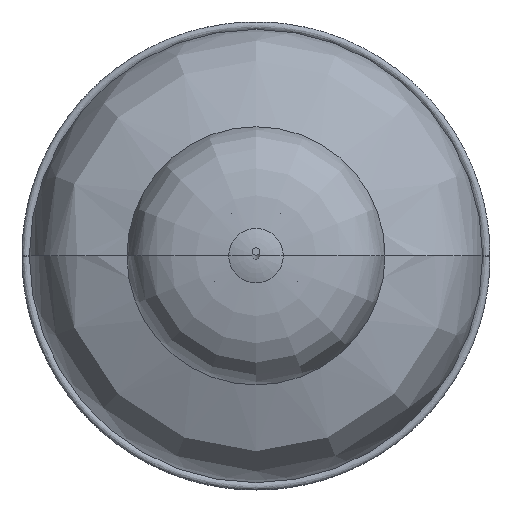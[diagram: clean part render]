
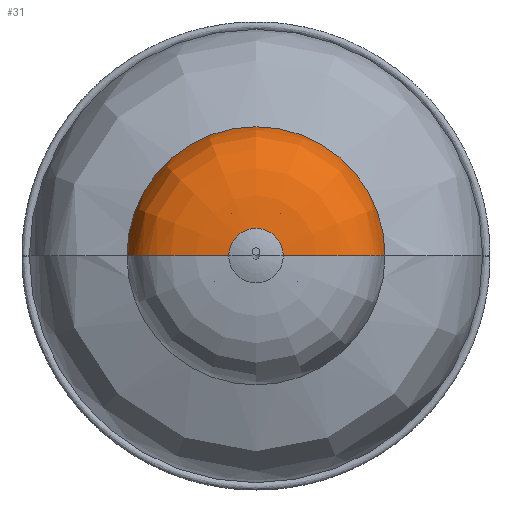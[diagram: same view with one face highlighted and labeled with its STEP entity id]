
A CAD part, top view. The second image highlights one B-rep face of the part: STEP entity #31.
In plain terms, the highlighted free-form (B-spline) face has degree [2, 5] with [5, 7] control points.
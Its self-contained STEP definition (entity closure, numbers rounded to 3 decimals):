
#31=ADVANCED_FACE('',(#49),#277,.T.);
#49=FACE_OUTER_BOUND('',#67,.T.);
#67=EDGE_LOOP('',(#108,#109,#110,#111));
#108=ORIENTED_EDGE('',*,*,#164,.T.);
#109=ORIENTED_EDGE('',*,*,#152,.T.);
#110=ORIENTED_EDGE('',*,*,#159,.F.);
#111=ORIENTED_EDGE('',*,*,#165,.F.);
#152=EDGE_CURVE('',#245,#244,#186,.T.);
#159=EDGE_CURVE('',#247,#244,#204,.T.);
#164=EDGE_CURVE('',#251,#245,#207,.T.);
#165=EDGE_CURVE('',#251,#247,#191,.T.);
#186=(
BOUNDED_CURVE()
B_SPLINE_CURVE(5,(#960,#961,#962,#963,#964,#965,#966),.UNSPECIFIED.,.F.,
 .F.)
B_SPLINE_CURVE_WITH_KNOTS((6,1,6),(48.712,78.42,167.688),
 .UNSPECIFIED.)
CURVE()
GEOMETRIC_REPRESENTATION_ITEM()
RATIONAL_B_SPLINE_CURVE((1.,1.,1.,1.,1.,1.,1.))
REPRESENTATION_ITEM('')
);
#191=(
BOUNDED_CURVE()
B_SPLINE_CURVE(5,(#1040,#1041,#1042,#1043,#1044,#1045,#1046),
 .UNSPECIFIED.,.F.,.F.)
B_SPLINE_CURVE_WITH_KNOTS((6,1,6),(48.712,78.42,167.688),
 .UNSPECIFIED.)
CURVE()
GEOMETRIC_REPRESENTATION_ITEM()
RATIONAL_B_SPLINE_CURVE((1.,1.,1.,1.,1.,1.,1.))
REPRESENTATION_ITEM('')
);
#204=TRIMMED_CURVE($,#226,(#1017),(#1018),.T.,.CARTESIAN.);
#207=TRIMMED_CURVE($,#229,(#1038),(#1039),.T.,.CARTESIAN.);
#226=CIRCLE('',#374,111.192);
#229=CIRCLE('',#377,23.5);
#244=VERTEX_POINT('',#909);
#245=VERTEX_POINT('',#910);
#247=VERTEX_POINT('',#912);
#251=VERTEX_POINT('',#916);
#277=(
BOUNDED_SURFACE()
B_SPLINE_SURFACE(2,5,((#872,#873,#874,#875,#876,#877,#878),(#879,#880,#881,
#882,#883,#884,#885),(#886,#887,#888,#889,#890,#891,#892),(#893,#894,#895,
#896,#897,#898,#899),(#900,#901,#902,#903,#904,#905,#906)),
 .UNSPECIFIED.,.F.,.F.,.F.)
B_SPLINE_SURFACE_WITH_KNOTS((3,2,3),(6,1,6),(633.248,949.873,
1266.497),(48.712,78.42,167.688),
 .UNSPECIFIED.)
GEOMETRIC_REPRESENTATION_ITEM()
RATIONAL_B_SPLINE_SURFACE(((1.,1.,1.,1.,1.,1.,1.),(0.707,0.707,
0.707,0.707,0.707,0.707,
0.707),(1.,1.,1.,1.,1.,1.,1.),(0.707,0.707,
0.707,0.707,0.707,0.707,
0.707),(1.,1.,1.,1.,1.,1.,1.)))
REPRESENTATION_ITEM('')
SURFACE()
);
#374=AXIS2_PLACEMENT_3D($,#1016,#418,#419);
#377=AXIS2_PLACEMENT_3D($,#1037,#424,#425);
#418=DIRECTION('',(0.,0.,-1.));
#419=DIRECTION('',(-1.,0.,0.));
#424=DIRECTION('',(0.,0.,-1.));
#425=DIRECTION('',(-1.,0.,0.));
#872=CARTESIAN_POINT('',(-23.5,0.,-4.75));
#873=CARTESIAN_POINT('',(-32.601,0.,-5.366));
#874=CARTESIAN_POINT('',(-67.895,0.,-9.015));
#875=CARTESIAN_POINT('',(-95.506,0.,-17.54));
#876=CARTESIAN_POINT('',(-105.461,0.,-31.063));
#877=CARTESIAN_POINT('',(-109.537,0.,-50.042));
#878=CARTESIAN_POINT('',(-111.192,0.,-65.061));
#879=CARTESIAN_POINT('',(-23.5,23.5,-4.75));
#880=CARTESIAN_POINT('',(-32.601,32.601,-5.366));
#881=CARTESIAN_POINT('',(-67.895,67.895,-9.015));
#882=CARTESIAN_POINT('',(-95.506,95.506,-17.54));
#883=CARTESIAN_POINT('',(-105.461,105.461,-31.063));
#884=CARTESIAN_POINT('',(-109.537,109.537,-50.042));
#885=CARTESIAN_POINT('',(-111.192,111.192,-65.061));
#886=CARTESIAN_POINT('',(0.,23.5,-4.75));
#887=CARTESIAN_POINT('',(0.,32.601,-5.366));
#888=CARTESIAN_POINT('',(0.,67.895,-9.015));
#889=CARTESIAN_POINT('',(0.,95.506,-17.54));
#890=CARTESIAN_POINT('',(0.,105.461,-31.063));
#891=CARTESIAN_POINT('',(0.,109.537,-50.042));
#892=CARTESIAN_POINT('',(0.,111.192,-65.061));
#893=CARTESIAN_POINT('',(23.5,23.5,-4.75));
#894=CARTESIAN_POINT('',(32.601,32.601,-5.366));
#895=CARTESIAN_POINT('',(67.895,67.895,-9.015));
#896=CARTESIAN_POINT('',(95.506,95.506,-17.54));
#897=CARTESIAN_POINT('',(105.461,105.461,-31.063));
#898=CARTESIAN_POINT('',(109.537,109.537,-50.042));
#899=CARTESIAN_POINT('',(111.192,111.192,-65.061));
#900=CARTESIAN_POINT('',(23.5,0.,-4.75));
#901=CARTESIAN_POINT('',(32.601,0.,-5.366));
#902=CARTESIAN_POINT('',(67.895,0.,-9.015));
#903=CARTESIAN_POINT('',(95.506,0.,-17.54));
#904=CARTESIAN_POINT('',(105.461,0.,-31.063));
#905=CARTESIAN_POINT('',(109.537,0.,-50.042));
#906=CARTESIAN_POINT('',(111.192,0.,-65.061));
#909=CARTESIAN_POINT('',(111.192,0.,-65.061));
#910=CARTESIAN_POINT('',(23.5,0.,-4.75));
#912=CARTESIAN_POINT('',(-111.192,0.,-65.061));
#916=CARTESIAN_POINT('',(-23.5,0.,-4.75));
#960=CARTESIAN_POINT('',(23.5,0.,-4.75));
#961=CARTESIAN_POINT('',(32.601,0.,-5.366));
#962=CARTESIAN_POINT('',(67.895,0.,-9.015));
#963=CARTESIAN_POINT('',(95.506,0.,-17.54));
#964=CARTESIAN_POINT('',(105.461,0.,-31.063));
#965=CARTESIAN_POINT('',(109.537,0.,-50.042));
#966=CARTESIAN_POINT('',(111.192,0.,-65.061));
#1016=CARTESIAN_POINT('',(0.,0.,-65.061));
#1017=CARTESIAN_POINT('',(-111.192,0.,-65.061));
#1018=CARTESIAN_POINT('',(111.192,0.,-65.061));
#1037=CARTESIAN_POINT('',(0.,0.,-4.75));
#1038=CARTESIAN_POINT('',(-23.5,0.,-4.75));
#1039=CARTESIAN_POINT('',(23.5,0.,-4.75));
#1040=CARTESIAN_POINT('',(-23.5,0.,-4.75));
#1041=CARTESIAN_POINT('',(-32.601,0.,-5.366));
#1042=CARTESIAN_POINT('',(-67.895,0.,-9.015));
#1043=CARTESIAN_POINT('',(-95.506,0.,-17.54));
#1044=CARTESIAN_POINT('',(-105.461,0.,-31.063));
#1045=CARTESIAN_POINT('',(-109.537,0.,-50.042));
#1046=CARTESIAN_POINT('',(-111.192,0.,-65.061));
